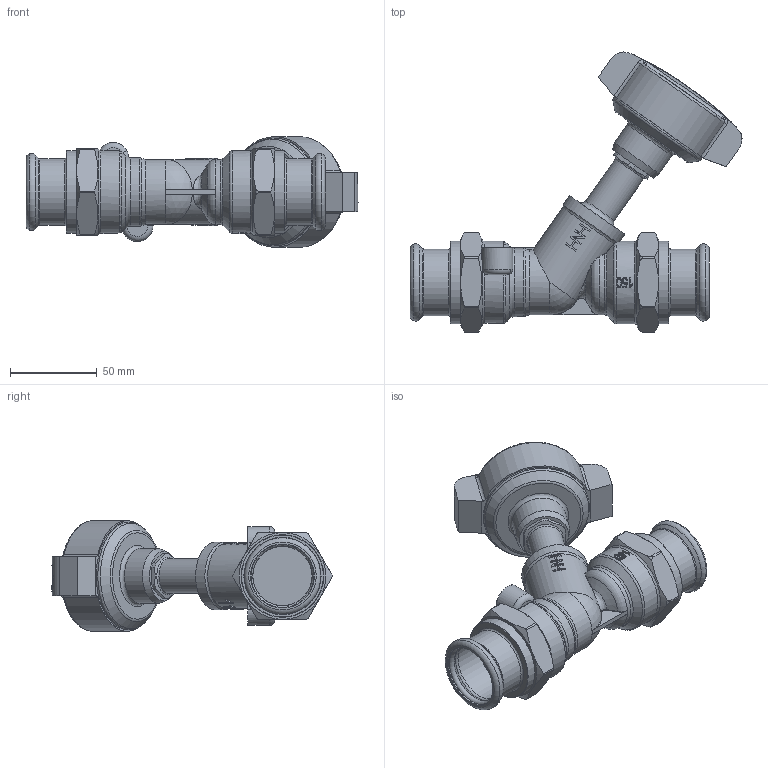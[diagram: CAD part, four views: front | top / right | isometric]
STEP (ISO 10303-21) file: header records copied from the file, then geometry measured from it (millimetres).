
FILE_DESCRIPTION((''),'2;1');
FILE_NAME('P:\Fastrack\53972_CRANE 3D\Push Fit\Fig_1432\Fig-1432-PF_35mm\Fig-1432-PF_35mm.stp','2011-08-24T16:13:55',('btaylor'),(''),'Autodesk Inventor 2008','Autodesk Inventor 2008','');
FILE_SCHEMA(('AUTOMOTIVE_DESIGN { 1 0 10303 214 1 1 1 1 }'));
Length unit declared in the file: millimetre
Products named in the file (1): Fig-1432-PF_35mm
Bounding box: 191.32 x 161.37 x 63.85 mm (x, y, z)
Volume: 351965.2 mm3; surface area: 67507.1 mm2
Topology: 1 solids, 3 shells, 735 faces, 1878 edges, 1202 vertices
Faces by surface type: plane 318, bspline 247, cylinder 106, cone 33, torus 29, sphere 2
Full cylindrical faces by diameter (mm): 20 x1, 31.5 x1, 35.3 x2, 36.2 x2, 38.5 x2, 38.8 x1, 47.4 x1, 47.6 x2, 61.958 x1
Entity records: 64614 total; most frequent: CARTESIAN_POINT 48670, ORIENTED_EDGE 3614, DIRECTION 2527, EDGE_CURVE 1807, VERTEX_POINT 1192, EDGE_LOOP 860, AXIS2_PLACEMENT_3D 855, VECTOR 817
